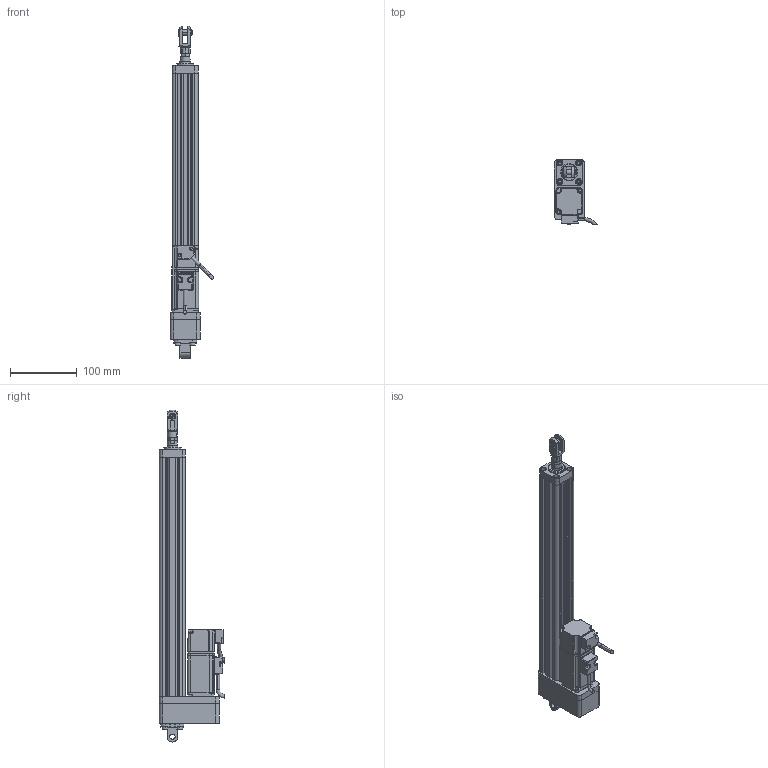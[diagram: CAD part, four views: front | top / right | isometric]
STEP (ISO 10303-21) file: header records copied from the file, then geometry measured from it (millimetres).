
FILE_DESCRIPTION (( 'STEP AP214' ), '1' );
FILE_NAME ('039-S300-D02-B-M5-C3-2.STEP', '2021-03-02T05:15:11', ( '' ), ( '' ), 'SwSTEP 2.0', 'SolidWorks 2018', '' );
FILE_SCHEMA (( 'AUTOMOTIVE_DESIGN' ));
Length unit declared in the file: millimetre
Products named in the file (10): CMC039-DT; CMC039-FL; CMC039-LJB; GB／T6174-2000六角薄螺母无倒角M8; 039-S300-D02-B-M5-C3-2; ECMA-CX0401ES-40框號系列機種-100W低慣量系列; F-ACE20CA_ACE_; F-MA20Y; CMC039-GT; CMC039-HXT
Assembly tree (9 placements, depth 2):
  039-S300-D02-B-M5-C3-2
    CMC039-GT
    CMC039-LJB
    CMC039-FL
    CMC039-DT
    ECMA-CX0401ES-40框號系列機種-100W低慣量系列
    CMC039-HXT
    F-ACE20CA_ACE_
    F-MA20Y
    GB／T6174-2000六角薄螺母无倒角M8
Bounding box: 65.34 x 97.89 x 499 mm (x, y, z)
Volume: 597431.2 mm3; surface area: 199628.7 mm2
Topology: 9 solids, 17 shells, 869 faces, 2270 edges, 1428 vertices
Faces by surface type: plane 355, cylinder 349, bspline 96, cone 69
Entity records: 33330 total; most frequent: CARTESIAN_POINT 12484, ORIENTED_EDGE 4474, DIRECTION 3863, EDGE_CURVE 2237, VERTEX_POINT 1428, AXIS2_PLACEMENT_3D 1376, LINE 1111, VECTOR 1111
